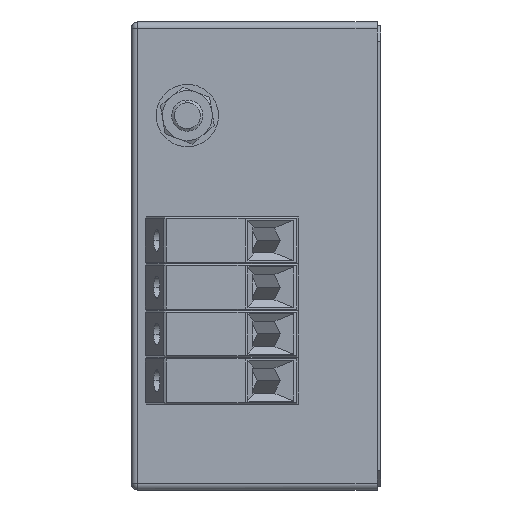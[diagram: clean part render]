
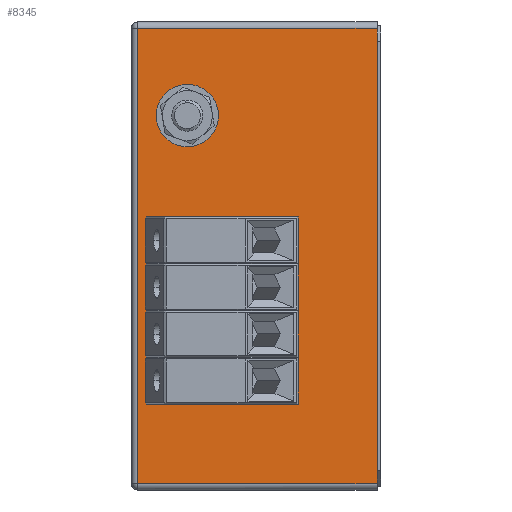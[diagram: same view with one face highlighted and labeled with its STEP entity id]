
A CAD part, left-side view. The second image highlights one B-rep face of the part: STEP entity #8345.
In plain terms, the highlighted planar face has unit normal (-1, 0, 0).
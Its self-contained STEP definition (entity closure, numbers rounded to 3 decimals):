
#103 = ORIENTED_EDGE ( 'NONE', *, *, #9547, .T. ) ;
#153 = CARTESIAN_POINT ( 'NONE',  ( -150., 62., 96.75 ) ) ;
#227 = DIRECTION ( 'NONE',  ( 0., -1., 0. ) ) ;
#294 = CIRCLE ( 'NONE', #9770, 2.05 ) ;
#534 = ORIENTED_EDGE ( 'NONE', *, *, #1365, .T. ) ;
#545 = ORIENTED_EDGE ( 'NONE', *, *, #2482, .T. ) ;
#588 = FACE_OUTER_BOUND ( 'NONE', #2660, .T. ) ;
#625 = VECTOR ( 'NONE', #6972, 1000. ) ;
#947 = VERTEX_POINT ( 'NONE', #4140 ) ;
#991 = VECTOR ( 'NONE', #1218, 1000. ) ;
#1008 = CARTESIAN_POINT ( 'NONE',  ( -150., 62., 26.75 ) ) ;
#1034 = EDGE_CURVE ( 'NONE', #6839, #3803, #1967, .T. ) ;
#1054 = CIRCLE ( 'NONE', #3783, 2.05 ) ;
#1086 = ORIENTED_EDGE ( 'NONE', *, *, #4171, .T. ) ;
#1094 = CIRCLE ( 'NONE', #6929, 2.05 ) ;
#1218 = DIRECTION ( 'NONE',  ( 0., 1., 0. ) ) ;
#1232 = EDGE_CURVE ( 'NONE', #1611, #8964, #1233, .T. ) ;
#1233 = CIRCLE ( 'NONE', #7917, 2.05 ) ;
#1240 = AXIS2_PLACEMENT_3D ( 'NONE', #153, #7945, #3873 ) ;
#1318 = ORIENTED_EDGE ( 'NONE', *, *, #7467, .T. ) ;
#1353 = DIRECTION ( 'NONE',  ( 1., 0., 0. ) ) ;
#1365 = EDGE_CURVE ( 'NONE', #3803, #3499, #3662, .T. ) ;
#1590 = CIRCLE ( 'NONE', #2900, 2.05 ) ;
#1596 = EDGE_CURVE ( 'NONE', #9990, #5789, #4887, .T. ) ;
#1611 = VERTEX_POINT ( 'NONE', #7866 ) ;
#1612 = CARTESIAN_POINT ( 'NONE',  ( -150., 62., 54.7 ) ) ;
#1639 = LINE ( 'NONE', #5533, #8958 ) ;
#1664 = DIRECTION ( 'NONE',  ( 0., 0., -1. ) ) ;
#1686 = EDGE_LOOP ( 'NONE', ( #10049, #9775 ) ) ;
#1698 = CARTESIAN_POINT ( 'NONE',  ( -150., 62., 91.75 ) ) ;
#1758 = VECTOR ( 'NONE', #3281, 1000. ) ;
#1856 = DIRECTION ( 'NONE',  ( 1., 0., 0. ) ) ;
#1907 = DIRECTION ( 'NONE',  ( 0., 0., -1. ) ) ;
#1967 = LINE ( 'NONE', #8804, #991 ) ;
#2018 = CIRCLE ( 'NONE', #8642, 2.05 ) ;
#2043 = ORIENTED_EDGE ( 'NONE', *, *, #1596, .T. ) ;
#2158 = CARTESIAN_POINT ( 'NONE',  ( -150., 62., 13.8 ) ) ;
#2210 = CARTESIAN_POINT ( 'NONE',  ( -150., 78., 124.75 ) ) ;
#2399 = FACE_BOUND ( 'NONE', #6554, .T. ) ;
#2407 = CIRCLE ( 'NONE', #5140, 2.05 ) ;
#2461 = CARTESIAN_POINT ( 'NONE',  ( -150., 62., 11.75 ) ) ;
#2482 = EDGE_CURVE ( 'NONE', #4506, #6520, #1094, .T. ) ;
#2579 = DIRECTION ( 'NONE',  ( 1., 0., 0. ) ) ;
#2630 = AXIS2_PLACEMENT_3D ( 'NONE', #2461, #4747, #1664 ) ;
#2660 = EDGE_LOOP ( 'NONE', ( #534, #1086, #8532, #5635 ) ) ;
#2806 = EDGE_CURVE ( 'NONE', #3163, #7013, #1054, .T. ) ;
#2899 = CARTESIAN_POINT ( 'NONE',  ( -150., 62., 41.75 ) ) ;
#2900 = AXIS2_PLACEMENT_3D ( 'NONE', #5539, #5305, #3155 ) ;
#2922 = EDGE_LOOP ( 'NONE', ( #3984, #3085 ) ) ;
#2933 = CARTESIAN_POINT ( 'NONE',  ( -150., 78., -23.25 ) ) ;
#3085 = ORIENTED_EDGE ( 'NONE', *, *, #6887, .T. ) ;
#3149 = EDGE_CURVE ( 'NONE', #6520, #4506, #2018, .T. ) ;
#3155 = DIRECTION ( 'NONE',  ( 0., 0., -1. ) ) ;
#3163 = VERTEX_POINT ( 'NONE', #2158 ) ;
#3187 = ORIENTED_EDGE ( 'NONE', *, *, #9722, .T. ) ;
#3281 = DIRECTION ( 'NONE',  ( 0., 0., 1. ) ) ;
#3398 = CARTESIAN_POINT ( 'NONE',  ( -150., 1.2, -21.25 ) ) ;
#3409 = CARTESIAN_POINT ( 'NONE',  ( -150., 62., 24.7 ) ) ;
#3448 = VERTEX_POINT ( 'NONE', #1612 ) ;
#3499 = VERTEX_POINT ( 'NONE', #6354 ) ;
#3510 = CARTESIAN_POINT ( 'NONE',  ( -150., 80., -23.25 ) ) ;
#3662 = LINE ( 'NONE', #2933, #625 ) ;
#3743 = FACE_BOUND ( 'NONE', #9481, .T. ) ;
#3783 = AXIS2_PLACEMENT_3D ( 'NONE', #10031, #8549, #5414 ) ;
#3803 = VERTEX_POINT ( 'NONE', #2210 ) ;
#3873 = DIRECTION ( 'NONE',  ( 0., 0., -1. ) ) ;
#3984 = ORIENTED_EDGE ( 'NONE', *, *, #1232, .T. ) ;
#4057 = EDGE_CURVE ( 'NONE', #4579, #6839, #7372, .T. ) ;
#4140 = CARTESIAN_POINT ( 'NONE',  ( -150., 62., 58.8 ) ) ;
#4171 = EDGE_CURVE ( 'NONE', #3499, #4579, #1639, .T. ) ;
#4372 = DIRECTION ( 'NONE',  ( 0., 0., -1. ) ) ;
#4393 = CARTESIAN_POINT ( 'NONE',  ( -150., 62., 26.75 ) ) ;
#4399 = DIRECTION ( 'NONE',  ( 1., 0., 0. ) ) ;
#4506 = VERTEX_POINT ( 'NONE', #8457 ) ;
#4545 = AXIS2_PLACEMENT_3D ( 'NONE', #3510, #7452, #9790 ) ;
#4579 = VERTEX_POINT ( 'NONE', #3398 ) ;
#4747 = DIRECTION ( 'NONE',  ( 1., 0., 0. ) ) ;
#4801 = ORIENTED_EDGE ( 'NONE', *, *, #3149, .T. ) ;
#4887 = CIRCLE ( 'NONE', #1240, 5. ) ;
#4907 = DIRECTION ( 'NONE',  ( 0., 0., -1. ) ) ;
#5091 = CARTESIAN_POINT ( 'NONE',  ( -150., 62., 96.75 ) ) ;
#5140 = AXIS2_PLACEMENT_3D ( 'NONE', #6363, #2579, #4907 ) ;
#5305 = DIRECTION ( 'NONE',  ( 1., 0., 0. ) ) ;
#5414 = DIRECTION ( 'NONE',  ( 0., 0., -1. ) ) ;
#5533 = CARTESIAN_POINT ( 'NONE',  ( -150., 80., -21.25 ) ) ;
#5539 = CARTESIAN_POINT ( 'NONE',  ( -150., 62., 41.75 ) ) ;
#5635 = ORIENTED_EDGE ( 'NONE', *, *, #1034, .T. ) ;
#5789 = VERTEX_POINT ( 'NONE', #1698 ) ;
#5807 = DIRECTION ( 'NONE',  ( 0., 0., -1. ) ) ;
#6041 = CARTESIAN_POINT ( 'NONE',  ( -150., 62., 56.75 ) ) ;
#6327 = FACE_BOUND ( 'NONE', #2922, .T. ) ;
#6354 = CARTESIAN_POINT ( 'NONE',  ( -150., 78., -21.25 ) ) ;
#6363 = CARTESIAN_POINT ( 'NONE',  ( -150., 62., 56.75 ) ) ;
#6520 = VERTEX_POINT ( 'NONE', #3409 ) ;
#6554 = EDGE_LOOP ( 'NONE', ( #103, #2043 ) ) ;
#6837 = AXIS2_PLACEMENT_3D ( 'NONE', #5091, #7426, #7389 ) ;
#6839 = VERTEX_POINT ( 'NONE', #9303 ) ;
#6887 = EDGE_CURVE ( 'NONE', #8964, #1611, #1590, .T. ) ;
#6905 = CIRCLE ( 'NONE', #6837, 5. ) ;
#6929 = AXIS2_PLACEMENT_3D ( 'NONE', #1008, #1856, #5807 ) ;
#6972 = DIRECTION ( 'NONE',  ( 0., 0., -1. ) ) ;
#7013 = VERTEX_POINT ( 'NONE', #8835 ) ;
#7019 = CIRCLE ( 'NONE', #2630, 2.05 ) ;
#7176 = FACE_BOUND ( 'NONE', #8952, .T. ) ;
#7372 = LINE ( 'NONE', #7993, #1758 ) ;
#7389 = DIRECTION ( 'NONE',  ( 0., 0., -1. ) ) ;
#7426 = DIRECTION ( 'NONE',  ( 1., 0., 0. ) ) ;
#7452 = DIRECTION ( 'NONE',  ( 1., 0., 0. ) ) ;
#7467 = EDGE_CURVE ( 'NONE', #3448, #947, #2407, .T. ) ;
#7866 = CARTESIAN_POINT ( 'NONE',  ( -150., 62., 39.7 ) ) ;
#7917 = AXIS2_PLACEMENT_3D ( 'NONE', #2899, #1353, #4372 ) ;
#7924 = FACE_BOUND ( 'NONE', #1686, .T. ) ;
#7945 = DIRECTION ( 'NONE',  ( 1., 0., 0. ) ) ;
#7993 = CARTESIAN_POINT ( 'NONE',  ( -150., 1.2, -23.25 ) ) ;
#8345 = ADVANCED_FACE ( 'NONE', ( #2399, #7176, #6327, #3743, #7924, #588 ), #8983, .F. ) ;
#8457 = CARTESIAN_POINT ( 'NONE',  ( -150., 62., 28.8 ) ) ;
#8532 = ORIENTED_EDGE ( 'NONE', *, *, #4057, .T. ) ;
#8549 = DIRECTION ( 'NONE',  ( 1., 0., 0. ) ) ;
#8611 = CARTESIAN_POINT ( 'NONE',  ( -150., 62., 101.75 ) ) ;
#8642 = AXIS2_PLACEMENT_3D ( 'NONE', #4393, #9993, #1907 ) ;
#8804 = CARTESIAN_POINT ( 'NONE',  ( -150., 80., 124.75 ) ) ;
#8835 = CARTESIAN_POINT ( 'NONE',  ( -150., 62., 9.7 ) ) ;
#8952 = EDGE_LOOP ( 'NONE', ( #1318, #3187 ) ) ;
#8958 = VECTOR ( 'NONE', #227, 1000. ) ;
#8964 = VERTEX_POINT ( 'NONE', #8970 ) ;
#8970 = CARTESIAN_POINT ( 'NONE',  ( -150., 62., 43.8 ) ) ;
#8983 = PLANE ( 'NONE',  #4545 ) ;
#9303 = CARTESIAN_POINT ( 'NONE',  ( -150., 1.2, 124.75 ) ) ;
#9414 = EDGE_CURVE ( 'NONE', #7013, #3163, #7019, .T. ) ;
#9481 = EDGE_LOOP ( 'NONE', ( #4801, #545 ) ) ;
#9547 = EDGE_CURVE ( 'NONE', #5789, #9990, #6905, .T. ) ;
#9722 = EDGE_CURVE ( 'NONE', #947, #3448, #294, .T. ) ;
#9770 = AXIS2_PLACEMENT_3D ( 'NONE', #6041, #4399, #9859 ) ;
#9775 = ORIENTED_EDGE ( 'NONE', *, *, #2806, .T. ) ;
#9790 = DIRECTION ( 'NONE',  ( 0., 0., -1. ) ) ;
#9859 = DIRECTION ( 'NONE',  ( 0., 0., -1. ) ) ;
#9990 = VERTEX_POINT ( 'NONE', #8611 ) ;
#9993 = DIRECTION ( 'NONE',  ( 1., 0., 0. ) ) ;
#10031 = CARTESIAN_POINT ( 'NONE',  ( -150., 62., 11.75 ) ) ;
#10049 = ORIENTED_EDGE ( 'NONE', *, *, #9414, .T. ) ;
